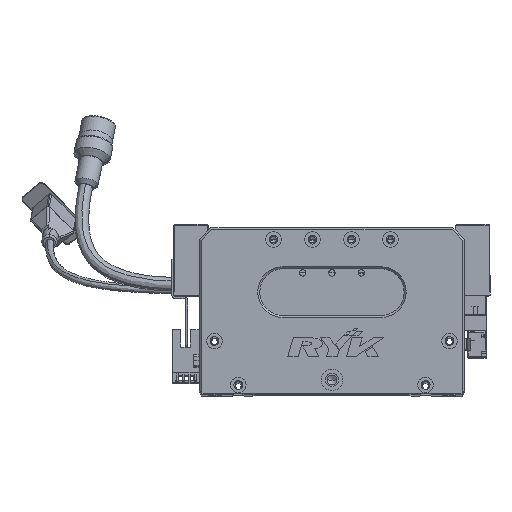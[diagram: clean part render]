
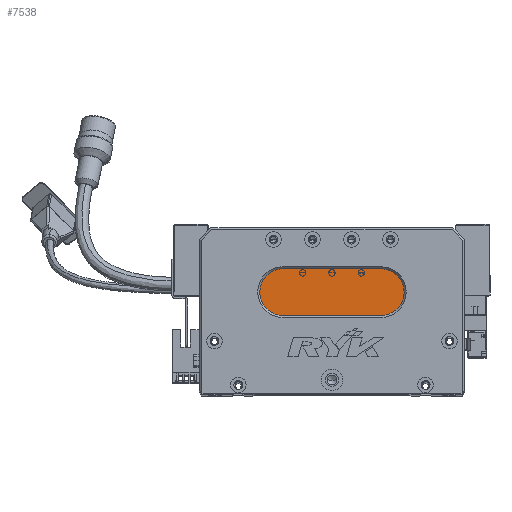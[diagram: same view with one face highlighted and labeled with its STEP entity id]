
A CAD part, top view. The second image highlights one B-rep face of the part: STEP entity #7538.
In plain terms, the highlighted planar face has unit normal (0, 0, 1) as drawn and (0, 0, -1) by its records, which use the part's own axes.
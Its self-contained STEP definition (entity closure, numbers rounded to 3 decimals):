
#15 = DIRECTION ( 'NONE',  ( -1., 0., 0. ) ) ;
#2088 = VERTEX_POINT ( 'NONE', #16309 ) ;
#5900 = VECTOR ( 'NONE', #62486, 1000. ) ;
#7538 = ADVANCED_FACE ( 'NONE', ( #31635 ), #15910, .T. ) ;
#10923 = DIRECTION ( 'NONE',  ( 0., 0., -1. ) ) ;
#12863 = EDGE_CURVE ( 'NONE', #63152, #16781, #13386, .T. ) ;
#13062 = DIRECTION ( 'NONE',  ( -1., 0., 0. ) ) ;
#13160 = CARTESIAN_POINT ( 'NONE',  ( 93., 40., 13. ) ) ;
#13386 = LINE ( 'NONE', #60344, #37043 ) ;
#13596 = ORIENTED_EDGE ( 'NONE', *, *, #21549, .T. ) ;
#15910 = PLANE ( 'NONE',  #30506 ) ;
#16309 = CARTESIAN_POINT ( 'NONE',  ( 93., 40., 13. ) ) ;
#16781 = VERTEX_POINT ( 'NONE', #69754 ) ;
#17169 = DIRECTION ( 'NONE',  ( 1., 0., 0. ) ) ;
#17322 = ORIENTED_EDGE ( 'NONE', *, *, #12863, .T. ) ;
#17500 = DIRECTION ( 'NONE',  ( 0., 0., -1. ) ) ;
#18614 = ORIENTED_EDGE ( 'NONE', *, *, #45660, .T. ) ;
#19365 = AXIS2_PLACEMENT_3D ( 'NONE', #23442, #29120, #13062 ) ;
#21079 = ORIENTED_EDGE ( 'NONE', *, *, #41685, .T. ) ;
#21549 = EDGE_CURVE ( 'NONE', #23615, #36965, #63247, .T. ) ;
#23442 = CARTESIAN_POINT ( 'NONE',  ( 93., 52., 13. ) ) ;
#23615 = VERTEX_POINT ( 'NONE', #62897 ) ;
#24277 = CARTESIAN_POINT ( 'NONE',  ( 31., 52., 13. ) ) ;
#25494 = CARTESIAN_POINT ( 'NONE',  ( 43., 52., 13. ) ) ;
#27880 = DIRECTION ( 'NONE',  ( -1., 0., 0. ) ) ;
#28771 = LINE ( 'NONE', #13160, #5900 ) ;
#29120 = DIRECTION ( 'NONE',  ( 0., 0., -1. ) ) ;
#30506 = AXIS2_PLACEMENT_3D ( 'NONE', #37409, #10923, #15 ) ;
#31173 = CIRCLE ( 'NONE', #68321, 12. ) ;
#31626 = DIRECTION ( 'NONE',  ( -1., 0., 0. ) ) ;
#31635 = FACE_OUTER_BOUND ( 'NONE', #48648, .T. ) ;
#36965 = VERTEX_POINT ( 'NONE', #24277 ) ;
#37043 = VECTOR ( 'NONE', #17169, 1000. ) ;
#37409 = CARTESIAN_POINT ( 'NONE',  ( 93., 52., 13. ) ) ;
#41685 = EDGE_CURVE ( 'NONE', #36965, #63152, #31173, .T. ) ;
#44935 = EDGE_CURVE ( 'NONE', #2088, #23615, #28771, .T. ) ;
#45660 = EDGE_CURVE ( 'NONE', #16781, #2088, #66092, .T. ) ;
#48648 = EDGE_LOOP ( 'NONE', ( #18614, #55646, #13596, #21079, #17322 ) ) ;
#55199 = CARTESIAN_POINT ( 'NONE',  ( 43., 52., 13. ) ) ;
#55646 = ORIENTED_EDGE ( 'NONE', *, *, #44935, .T. ) ;
#59054 = AXIS2_PLACEMENT_3D ( 'NONE', #55199, #17500, #27880 ) ;
#60344 = CARTESIAN_POINT ( 'NONE',  ( 93., 64., 13. ) ) ;
#60958 = CARTESIAN_POINT ( 'NONE',  ( 43., 64., 13. ) ) ;
#62486 = DIRECTION ( 'NONE',  ( -1., 0., 0. ) ) ;
#62897 = CARTESIAN_POINT ( 'NONE',  ( 43., 40., 13. ) ) ;
#63152 = VERTEX_POINT ( 'NONE', #60958 ) ;
#63247 = CIRCLE ( 'NONE', #59054, 12. ) ;
#63516 = DIRECTION ( 'NONE',  ( 0., 0., -1. ) ) ;
#66092 = CIRCLE ( 'NONE', #19365, 12. ) ;
#68321 = AXIS2_PLACEMENT_3D ( 'NONE', #25494, #63516, #31626 ) ;
#69754 = CARTESIAN_POINT ( 'NONE',  ( 93., 64., 13. ) ) ;
